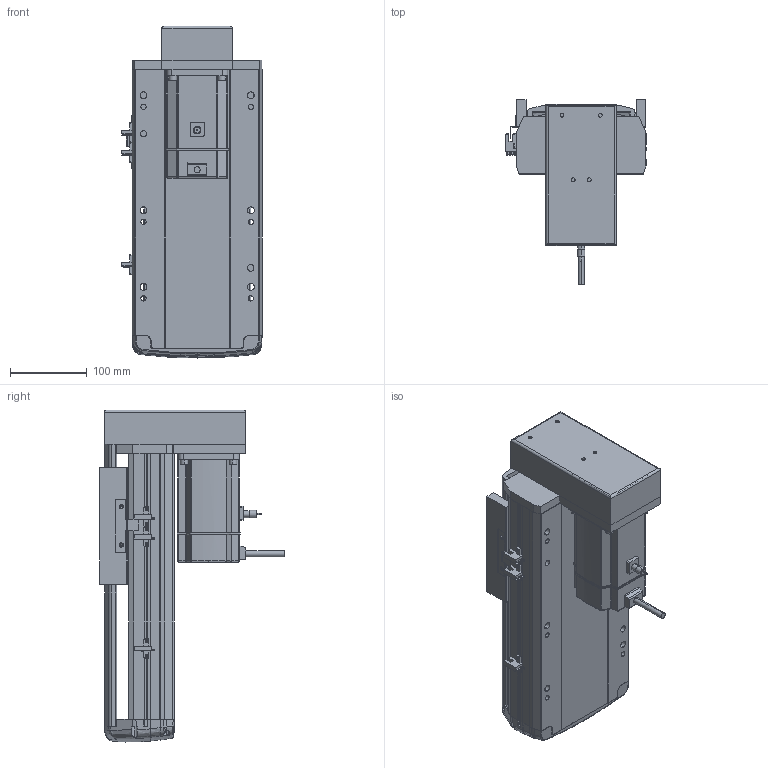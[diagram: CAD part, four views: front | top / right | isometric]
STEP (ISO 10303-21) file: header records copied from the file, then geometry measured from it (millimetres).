
FILE_DESCRIPTION (( 'STEP AP214' ), '1' );
FILE_NAME ('RTH17-XX-150-M-M75-C4.STEP', '2025-10-24T10:21:32', ( '' ), ( '' ), 'SwSTEP 2.0', 'SolidWorks 2018', '' );
FILE_SCHEMA (( 'AUTOMOTIVE_DESIGN' ));
Length unit declared in the file: millimetre
Products named in the file (10): N_RTH17-E-004丝杆螺母连接座^RTH17-XX-XX-M-M75-C4（方程式）; N_RTH17-M-018盖子^RTH17-XX-XX-M-M75-C4（方程式）; N_RTH17-M-007上盖^RTH17-XX-XX-M-M75-C4（方程式）; RTH17-XX-150-M-M75-C4; N_OMRON EE-SX672 換覜ん^RTH17-XX-XX-M-M75-C4ㄗ源最宒ㄘ; N_RTH17-GY-001P^RTH17-XX-XX-M-M75-C4（方程式）; N_RTH17-M-008-P75电机安装板下折750W^RTH17-XX-XX-M-M75-C4（方程式）; N_RTH17-M-011底座^RTH17-XX-XX-M-M75-C4（方程式）; N_RTH-BL-012 感应片(外置)^RTH17-XX-XX-M-M75-C4（方程式）; N_M75^RTH17-XX-XX-M-M75-C4（方程式）
Assembly tree (11 placements, depth 2):
  RTH17-XX-150-M-M75-C4
    N_RTH17-M-011底座^RTH17-XX-XX-M-M75-C4（方程式）
    N_RTH17-M-007上盖^RTH17-XX-XX-M-M75-C4（方程式）
    N_M75^RTH17-XX-XX-M-M75-C4（方程式）
    N_OMRON EE-SX672 換覜ん^RTH17-XX-XX-M-M75-C4ㄗ源最宒ㄘ  x3
    N_RTH-BL-012 感应片(外置)^RTH17-XX-XX-M-M75-C4（方程式）
    N_RTH17-M-008-P75电机安装板下折750W^RTH17-XX-XX-M-M75-C4（方程式）
    N_RTH17-M-018盖子^RTH17-XX-XX-M-M75-C4（方程式）
    N_RTH17-E-004丝杆螺母连接座^RTH17-XX-XX-M-M75-C4（方程式）
    N_RTH17-GY-001P^RTH17-XX-XX-M-M75-C4（方程式）
Bounding box: 183.5 x 240.7 x 433.27 mm (x, y, z)
Volume: 4382767.8 mm3; surface area: 678871.7 mm2
Topology: 10 solids, 12 shells, 1709 faces, 4688 edges, 3032 vertices
Faces by surface type: plane 824, cylinder 471, bspline 377, cone 28, torus 9
Entity records: 49207 total; most frequent: CARTESIAN_POINT 19758, ORIENTED_EDGE 6400, DIRECTION 5314, EDGE_CURVE 3204, VERTEX_POINT 2068, LINE 1772, VECTOR 1772, AXIS2_PLACEMENT_3D 1771
